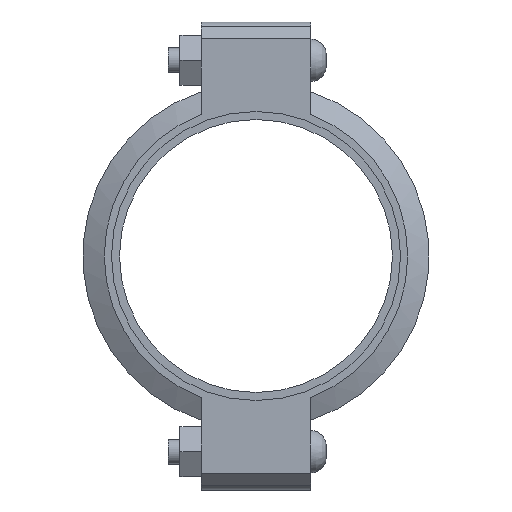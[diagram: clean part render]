
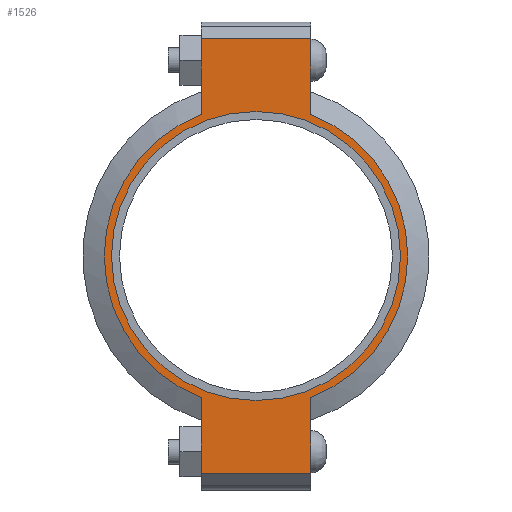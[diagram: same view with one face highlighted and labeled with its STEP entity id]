
A CAD part, left-side view. The second image highlights one B-rep face of the part: STEP entity #1526.
In plain terms, the highlighted planar face has unit normal (-1, 0, 0) as drawn and (0, 0, 1) by its records, which use the part's own axes.
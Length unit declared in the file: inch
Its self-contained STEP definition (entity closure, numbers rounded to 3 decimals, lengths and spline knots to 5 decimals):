
#150=LINE('',#2663,#243);
#158=LINE('',#2699,#251);
#165=LINE('',#2720,#258);
#174=LINE('',#2752,#267);
#175=LINE('',#2756,#268);
#176=LINE('',#2758,#269);
#243=VECTOR('',#2175,0.3937);
#251=VECTOR('',#2191,0.3937);
#258=VECTOR('',#2210,0.3937);
#267=VECTOR('',#2235,0.3937);
#268=VECTOR('',#2240,0.3937);
#269=VECTOR('',#2241,0.3937);
#325=FACE_BOUND('',#503,.T.);
#397=FACE_OUTER_BOUND('',#502,.T.);
#502=EDGE_LOOP('',(#1267,#1268,#1269,#1270,#1271,#1272,#1273,#1274));
#503=EDGE_LOOP('',(#1275));
#575=CIRCLE('',#1745,4.3125);
#601=CIRCLE('',#1804,4.53);
#602=CIRCLE('',#1805,4.53);
#667=VERTEX_POINT('',#2479);
#710=VERTEX_POINT('',#2660);
#711=VERTEX_POINT('',#2662);
#722=VERTEX_POINT('',#2694);
#723=VERTEX_POINT('',#2698);
#730=VERTEX_POINT('',#2717);
#731=VERTEX_POINT('',#2719);
#741=VERTEX_POINT('',#2755);
#742=VERTEX_POINT('',#2757);
#823=EDGE_CURVE('',#667,#667,#575,.T.);
#884=EDGE_CURVE('',#711,#710,#150,.T.);
#898=EDGE_CURVE('',#723,#722,#158,.T.);
#908=EDGE_CURVE('',#731,#730,#165,.T.);
#923=EDGE_CURVE('',#723,#710,#174,.T.);
#924=EDGE_CURVE('',#722,#731,#601,.T.);
#925=EDGE_CURVE('',#741,#730,#175,.T.);
#926=EDGE_CURVE('',#741,#742,#176,.T.);
#927=EDGE_CURVE('',#742,#711,#602,.T.);
#1267=ORIENTED_EDGE('',*,*,#923,.F.);
#1268=ORIENTED_EDGE('',*,*,#898,.T.);
#1269=ORIENTED_EDGE('',*,*,#924,.T.);
#1270=ORIENTED_EDGE('',*,*,#908,.T.);
#1271=ORIENTED_EDGE('',*,*,#925,.F.);
#1272=ORIENTED_EDGE('',*,*,#926,.T.);
#1273=ORIENTED_EDGE('',*,*,#927,.T.);
#1274=ORIENTED_EDGE('',*,*,#884,.T.);
#1275=ORIENTED_EDGE('',*,*,#823,.T.);
#1368=PLANE('',#1803);
#1526=ADVANCED_FACE('',(#397,#325),#1368,.T.);
#1745=AXIS2_PLACEMENT_3D('',#2481,#2051,#2052);
#1803=AXIS2_PLACEMENT_3D('',#2753,#2236,#2237);
#1804=AXIS2_PLACEMENT_3D('',#2754,#2238,#2239);
#1805=AXIS2_PLACEMENT_3D('',#2759,#2242,#2243);
#2051=DIRECTION('center_axis',(0.,0.,-1.));
#2052=DIRECTION('ref_axis',(-1.,0.,0.));
#2175=DIRECTION('',(-1.,0.,0.));
#2191=DIRECTION('',(1.,0.,0.));
#2210=DIRECTION('',(1.,0.,0.));
#2235=DIRECTION('',(0.,1.,0.));
#2236=DIRECTION('center_axis',(0.,0.,1.));
#2237=DIRECTION('ref_axis',(1.,0.,0.));
#2238=DIRECTION('center_axis',(0.,0.,1.));
#2239=DIRECTION('ref_axis',(-1.,0.,0.));
#2240=DIRECTION('',(0.,-1.,0.));
#2241=DIRECTION('',(-1.,0.,0.));
#2242=DIRECTION('center_axis',(0.,0.,1.));
#2243=DIRECTION('ref_axis',(-1.,0.,0.));
#2479=CARTESIAN_POINT('',(4.3125,0.,1.16));
#2481=CARTESIAN_POINT('Origin',(0.,0.,1.16));
#2660=CARTESIAN_POINT('',(-6.485,1.63,1.16));
#2662=CARTESIAN_POINT('',(-4.22658,1.63,1.16));
#2663=CARTESIAN_POINT('',(-6.985,1.63,1.16));
#2694=CARTESIAN_POINT('',(-4.22658,-1.63,1.16));
#2698=CARTESIAN_POINT('',(-6.485,-1.63,1.16));
#2699=CARTESIAN_POINT('',(6.985,-1.63,1.16));
#2717=CARTESIAN_POINT('',(6.485,-1.63,1.16));
#2719=CARTESIAN_POINT('',(4.22658,-1.63,1.16));
#2720=CARTESIAN_POINT('',(6.985,-1.63,1.16));
#2752=CARTESIAN_POINT('',(-6.485,0.815,1.16));
#2753=CARTESIAN_POINT('Origin',(0.,0.,
1.16));
#2754=CARTESIAN_POINT('Origin',(0.,0.,1.16));
#2755=CARTESIAN_POINT('',(6.485,1.63,1.16));
#2756=CARTESIAN_POINT('',(6.485,-0.815,1.16));
#2757=CARTESIAN_POINT('',(4.22658,1.63,1.16));
#2758=CARTESIAN_POINT('',(-6.985,1.63,1.16));
#2759=CARTESIAN_POINT('Origin',(0.,0.,1.16));
